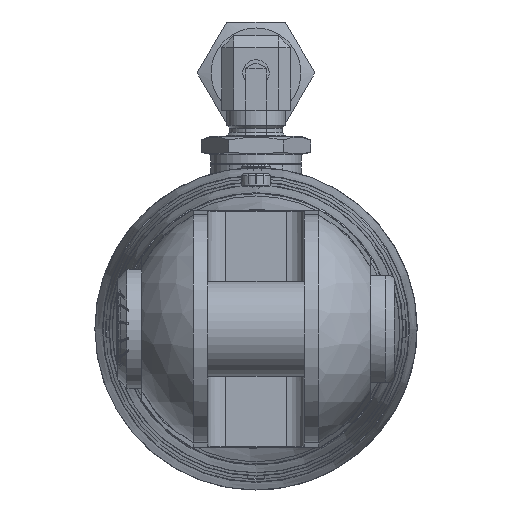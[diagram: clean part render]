
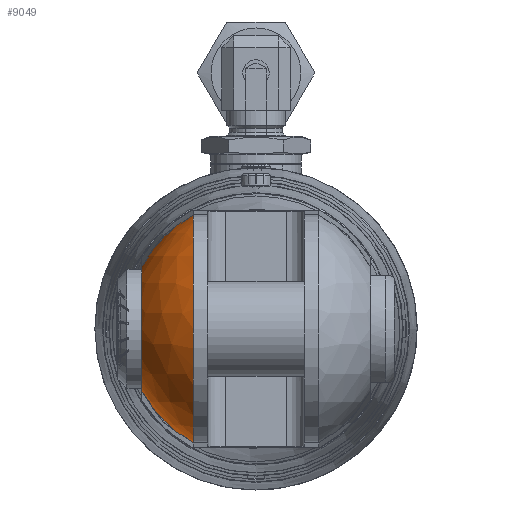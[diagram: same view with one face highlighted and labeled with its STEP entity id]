
A CAD part, left-side view. The second image highlights one B-rep face of the part: STEP entity #9049.
In plain terms, the highlighted spherical face has radius 21.732 mm.
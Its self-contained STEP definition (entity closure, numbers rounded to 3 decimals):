
#23=SPHERICAL_SURFACE('',#9946,21.732);
#2714=FACE_OUTER_BOUND('',#3247,.T.);
#3247=EDGE_LOOP('',(#8058,#8059,#8060,#8061));
#3733=CIRCLE('',#9942,21.729);
#3734=CIRCLE('',#9944,21.729);
#3736=CIRCLE('',#9947,19.056);
#3737=CIRCLE('',#9948,10.447);
#4568=VERTEX_POINT('',#16273);
#4571=VERTEX_POINT('',#16286);
#4573=VERTEX_POINT('',#16293);
#4574=VERTEX_POINT('',#16298);
#5770=EDGE_CURVE('',#4571,#4568,#3733,.T.);
#5772=EDGE_CURVE('',#4573,#4574,#3734,.T.);
#5777=EDGE_CURVE('',#4573,#4568,#3736,.T.);
#5778=EDGE_CURVE('',#4571,#4574,#3737,.T.);
#8058=ORIENTED_EDGE('',*,*,#5777,.T.);
#8059=ORIENTED_EDGE('',*,*,#5770,.F.);
#8060=ORIENTED_EDGE('',*,*,#5778,.T.);
#8061=ORIENTED_EDGE('',*,*,#5772,.F.);
#9049=ADVANCED_FACE('',(#2714),#23,.T.);
#9942=AXIS2_PLACEMENT_3D('',#16290,#12132,#12133);
#9944=AXIS2_PLACEMENT_3D('',#16299,#12136,#12137);
#9946=AXIS2_PLACEMENT_3D('',#16313,#12140,#12141);
#9947=AXIS2_PLACEMENT_3D('',#16314,#12142,#12143);
#9948=AXIS2_PLACEMENT_3D('',#16315,#12144,#12145);
#12132=DIRECTION('center_axis',(1.,0.,0.));
#12133=DIRECTION('ref_axis',(0.,0.,
1.));
#12136=DIRECTION('center_axis',(1.,0.,0.));
#12137=DIRECTION('ref_axis',(0.,0.,
1.));
#12140=DIRECTION('center_axis',(0.,0.,1.));
#12141=DIRECTION('ref_axis',(-1.,0.,0.));
#12142=DIRECTION('center_axis',(0.,1.,0.));
#12143=DIRECTION('ref_axis',(-0.018,0.,1.));
#12144=DIRECTION('center_axis',(0.,-1.,0.));
#12145=DIRECTION('ref_axis',(0.,0.,
-1.));
#16273=CARTESIAN_POINT('',(-1463.135,10.447,19.052));
#16286=CARTESIAN_POINT('',(-1463.135,19.056,10.441));
#16290=CARTESIAN_POINT('Origin',(-1463.135,0.,
0.));
#16293=CARTESIAN_POINT('',(-1463.135,10.447,-19.052));
#16298=CARTESIAN_POINT('',(-1463.135,19.056,-10.441));
#16299=CARTESIAN_POINT('Origin',(-1463.135,0.,
0.));
#16313=CARTESIAN_POINT('Origin',(-1462.768,0.,0.));
#16314=CARTESIAN_POINT('Origin',(-1462.768,10.447,0.));
#16315=CARTESIAN_POINT('Origin',(-1462.768,19.056,0.));
